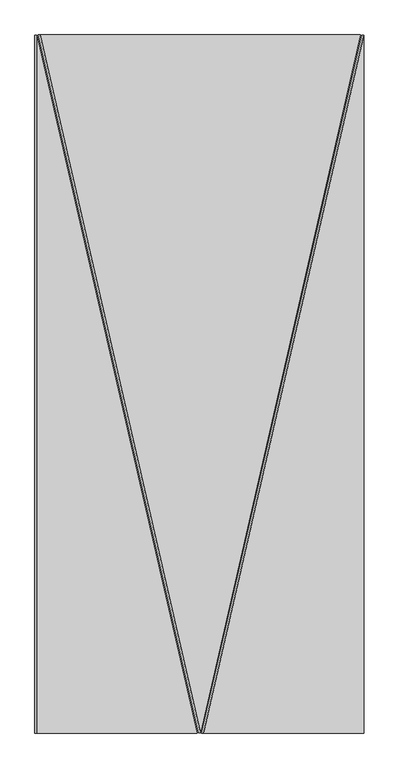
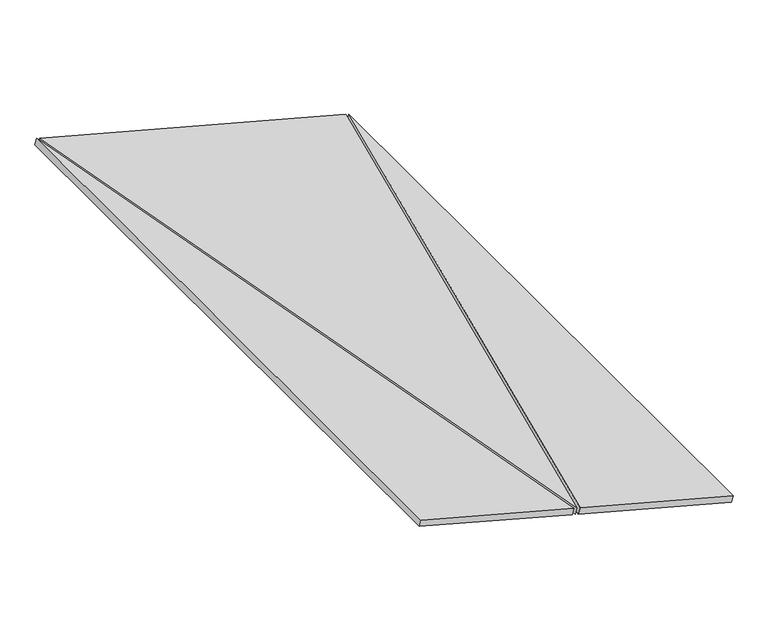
"""IFC4 building model written with IfcOpenShell, lengths in millimetres: proxy geometry, panel sufitowy 6 : panel sufitowy 6."""

from ifc_helpers import new_model, si_unit, frame, origin, place, context, project, spatial, polyline, outline, extrude, source, transform, mapped, element, save


def generic_models_568cdfc9(model_context):
    return source(origin(), model_context, "Body", "SweptSolid", [
        extrude(outline(polyline([(-900.9098917, 0.0), (1235.4098448, -1e-07), (1006.1909889, -962.7191946), (-900.9098917, 0.0)])), frame((527.6382688, -1457.4151922, 1042.5770253), z_axis=(0.25881904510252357, 0.0, 0.9659258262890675), x_axis=(-0.22372824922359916, 0.9728062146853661, 0.05994780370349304)), (0.0, 0.0, 1.0), 20.0),
        extrude(outline(polyline([(-127.4999999, 0.0), (-622.5, 0.0), (-127.4999999, 2079.0), (-127.4999999, 0.0)])), frame((1339.8753322, -2335.0, 824.9387601), z_axis=(0.25881904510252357, 0.0, 0.9659258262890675), x_axis=(0.9659258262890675, 0.0, -0.25881904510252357)), (0.0, 0.0, 1.0), 20.0),
        extrude(outline(polyline([(-127.5, 0.0), (-127.5, -2079.0), (-622.5, 0.0), (-127.5, 0.0)])), frame((117.9791619, -2335.0, 1152.3448521), z_axis=(0.25881904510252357, 0.0, 0.9659258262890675), x_axis=(-0.9659258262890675, 0.0, 0.25881904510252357)), (0.0, 0.0, 1.0), 20.0),
    ])


if __name__ == "__main__":
    model = new_model("IFC4")
    model_context = context("Model", 3, world=origin())
    ifc_project = project(units=[si_unit("LENGTHUNIT", "METRE", prefix="MILLI")], contexts=[model_context])
    site = spatial("IfcSite", under=ifc_project)
    building = spatial("IfcBuilding", under=site)
    placement = place(None, origin())
    generic_models_shape = generic_models_568cdfc9(model_context)
    element("IfcBuildingElementProxy", 1, Name="panel sufitowy 6 : panel sufitowy 6", ObjectType="panel sufitowy 6 : panel sufitowy 6", at=placement, inside=building, context=model_context, shape_type="MappedRepresentation", body=[
        mapped(generic_models_shape, transform((0.0, 0.0, 0.0), x_axis=(1.0, 0.0, 0.0), y_axis=(0.0, 1.0, 0.0), z_axis=(0.0, 0.0, 1.0))),
    ])
    save(model, "model.ifc")
